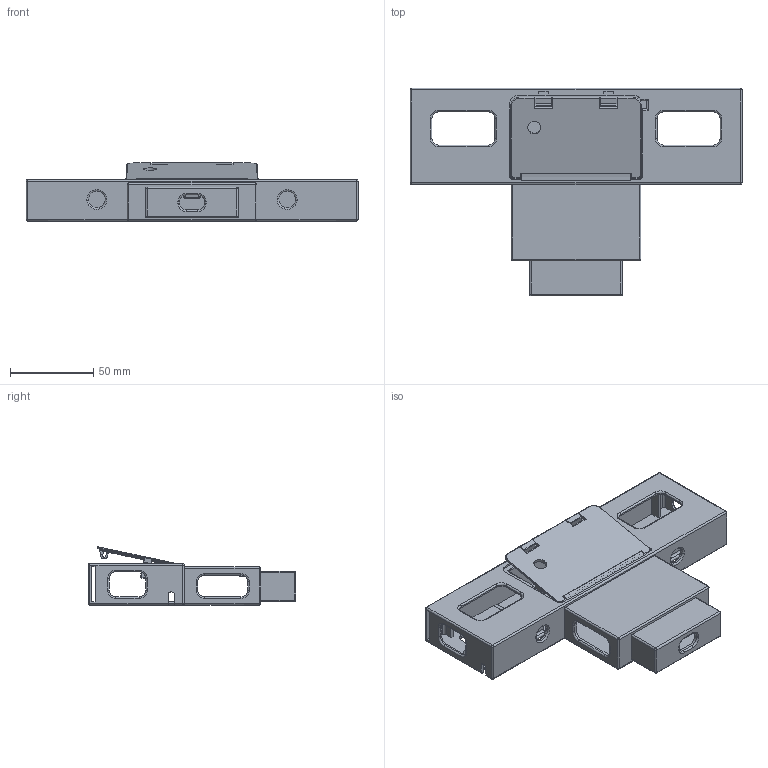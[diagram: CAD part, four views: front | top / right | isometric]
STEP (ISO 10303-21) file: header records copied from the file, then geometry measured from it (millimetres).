
FILE_DESCRIPTION(('CATIA V5 STEP Exchange'),'2;1');
FILE_NAME('D:\_3D_Printing_Projects_BackUP\Melinda_Green_Glider\CA_V5.stp','2017-02-19T08:33:46+00:00',('none'),('none'),'CATIA Version 5 Release 20 GA (IN-10)','CATIA V5 STEP AP203','none');
FILE_SCHEMA(('CONFIG_CONTROL_DESIGN'));
Length unit declared in the file: millimetre
Products named in the file (1): Component_Assembly
Bounding box: 200 x 125 x 35.04 mm (x, y, z)
Volume: 99925.5 mm3; surface area: 93878.1 mm2
Topology: 1 solids, 1 shells, 719 faces, 1946 edges, 1199 vertices
Faces by surface type: cylinder 303, plane 282, torus 96, sphere 28, extrusion 10
Entity records: 21376 total; most frequent: CARTESIAN_POINT 4423, ORIENTED_EDGE 3836, DIRECTION 2884, EDGE_CURVE 1918, AXIS2_PLACEMENT_3D 1215, VERTEX_POINT 1199, VECTOR 1146, LINE 1136
